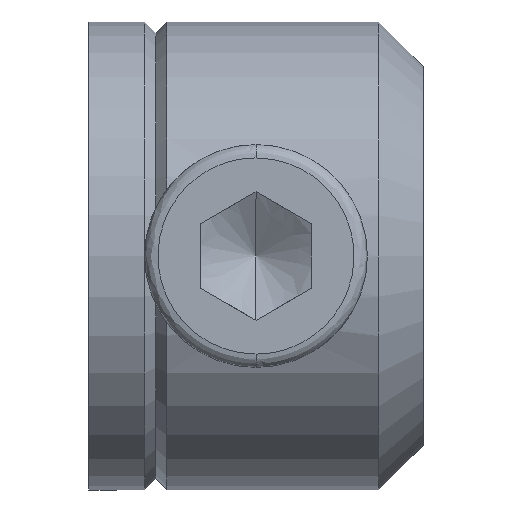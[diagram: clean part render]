
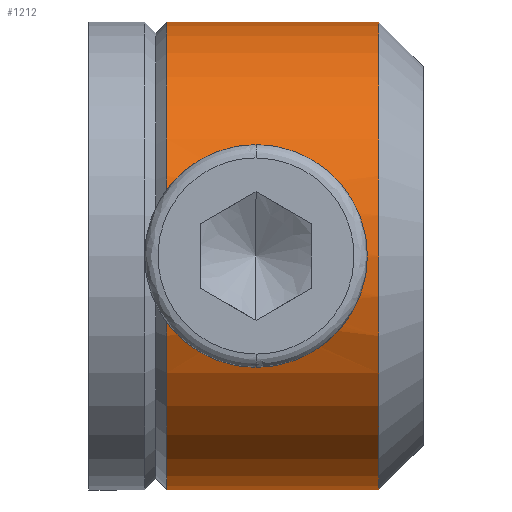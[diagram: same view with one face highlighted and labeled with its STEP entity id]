
A CAD part, front view. The second image highlights one B-rep face of the part: STEP entity #1212.
In plain terms, the highlighted cylindrical face has radius 10.5 mm (diameter 21 mm), a partial arc.
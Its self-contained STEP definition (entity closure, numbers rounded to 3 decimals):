
#40 = CARTESIAN_POINT ( 'NONE',  ( 14.548, 3.443, -10.5 ) ) ;
#87 = DIRECTION ( 'NONE',  ( -1., 0., 0. ) ) ;
#88 = VECTOR ( 'NONE', #87, 1000. ) ;
#89 = CARTESIAN_POINT ( 'NONE',  ( 9.798, 3.443, -10.5 ) ) ;
#90 = LINE ( 'NONE', #89, #88 ) ;
#91 = CARTESIAN_POINT ( 'NONE',  ( 14.548, 3.443, 10.5 ) ) ;
#170 = DIRECTION ( 'NONE',  ( -1., 0., 0. ) ) ;
#171 = VECTOR ( 'NONE', #170, 1000. ) ;
#172 = CARTESIAN_POINT ( 'NONE',  ( 9.798, 3.443, 10.5 ) ) ;
#173 = LINE ( 'NONE', #172, #171 ) ;
#174 = CARTESIAN_POINT ( 'NONE',  ( 5.048, 3.443, -10.5 ) ) ;
#531 = DIRECTION ( 'NONE',  ( 0., 0., 1. ) ) ;
#540 = DIRECTION ( 'NONE',  ( 0., 0., 1. ) ) ;
#541 = DIRECTION ( 'NONE',  ( 1., 0., 0. ) ) ;
#542 = CARTESIAN_POINT ( 'NONE',  ( 5.048, 3.443, 0. ) ) ;
#543 = AXIS2_PLACEMENT_3D ( 'NONE', #542, #541, #540 ) ;
#544 = CIRCLE ( 'NONE', #543, 10.5 ) ;
#617 = CARTESIAN_POINT ( 'NONE',  ( 6.048, -7.057, 0. ) ) ;
#618 = CARTESIAN_POINT ( 'NONE',  ( 6.048, -7.057, -0.199 ) ) ;
#619 = CARTESIAN_POINT ( 'NONE',  ( 6.068, -7.052, -0.396 ) ) ;
#620 = CARTESIAN_POINT ( 'NONE',  ( 6.146, -7.03, -0.784 ) ) ;
#621 = CARTESIAN_POINT ( 'NONE',  ( 6.204, -7.013, -0.974 ) ) ;
#622 = CARTESIAN_POINT ( 'NONE',  ( 6.429, -6.954, -1.514 ) ) ;
#623 = CARTESIAN_POINT ( 'NONE',  ( 6.653, -6.897, -1.847 ) ) ;
#624 = CARTESIAN_POINT ( 'NONE',  ( 7.065, -6.812, -2.259 ) ) ;
#625 = CARTESIAN_POINT ( 'NONE',  ( 7.218, -6.783, -2.385 ) ) ;
#626 = CARTESIAN_POINT ( 'NONE',  ( 7.544, -6.73, -2.603 ) ) ;
#627 = CARTESIAN_POINT ( 'NONE',  ( 7.715, -6.706, -2.695 ) ) ;
#628 = CARTESIAN_POINT ( 'NONE',  ( 8.078, -6.665, -2.845 ) ) ;
#629 = CARTESIAN_POINT ( 'NONE',  ( 8.269, -6.648, -2.904 ) ) ;
#630 = CARTESIAN_POINT ( 'NONE',  ( 8.654, -6.625, -2.98 ) ) ;
#631 = CARTESIAN_POINT ( 'NONE',  ( 8.849, -6.619, -3. ) ) ;
#632 = CARTESIAN_POINT ( 'NONE',  ( 9.248, -6.619, -3. ) ) ;
#633 = CARTESIAN_POINT ( 'NONE',  ( 9.444, -6.625, -2.98 ) ) ;
#634 = CARTESIAN_POINT ( 'NONE',  ( 9.833, -6.648, -2.902 ) ) ;
#635 = CARTESIAN_POINT ( 'NONE',  ( 10.022, -6.665, -2.844 ) ) ;
#636 = CARTESIAN_POINT ( 'NONE',  ( 10.563, -6.726, -2.619 ) ) ;
#637 = CARTESIAN_POINT ( 'NONE',  ( 10.895, -6.784, -2.396 ) ) ;
#638 = CARTESIAN_POINT ( 'NONE',  ( 11.308, -6.869, -1.983 ) ) ;
#639 = CARTESIAN_POINT ( 'NONE',  ( 11.433, -6.898, -1.83 ) ) ;
#640 = CARTESIAN_POINT ( 'NONE',  ( 11.651, -6.95, -1.505 ) ) ;
#649 = DIRECTION ( 'NONE',  ( -1., 0., 0. ) ) ;
#650 = CARTESIAN_POINT ( 'NONE',  ( 9.798, 3.443, 0. ) ) ;
#651 = AXIS2_PLACEMENT_3D ( 'NONE', #650, #649, #531 ) ;
#653 = CYLINDRICAL_SURFACE ( 'NONE', #651, 10.5 ) ;
#654 = FACE_BOUND ( 'NONE', #1080, .T. ) ;
#655 = FACE_OUTER_BOUND ( 'NONE', #1172, .T. ) ;
#661 = DIRECTION ( 'NONE',  ( 0., -1., 0. ) ) ;
#662 = DIRECTION ( 'NONE',  ( 1., 0., 0. ) ) ;
#663 = CARTESIAN_POINT ( 'NONE',  ( 14.548, 3.443, 0. ) ) ;
#664 = AXIS2_PLACEMENT_3D ( 'NONE', #663, #662, #661 ) ;
#665 = CIRCLE ( 'NONE', #664, 10.5 ) ;
#669 = CARTESIAN_POINT ( 'NONE',  ( 11.743, -6.974, -1.333 ) ) ;
#670 = CARTESIAN_POINT ( 'NONE',  ( 11.894, -7.014, -0.971 ) ) ;
#671 = CARTESIAN_POINT ( 'NONE',  ( 11.952, -7.03, -0.78 ) ) ;
#672 = CARTESIAN_POINT ( 'NONE',  ( 12.029, -7.052, -0.395 ) ) ;
#673 = CARTESIAN_POINT ( 'NONE',  ( 12.048, -7.057, -0.199 ) ) ;
#674 = CARTESIAN_POINT ( 'NONE',  ( 12.048, -7.057, 0. ) ) ;
#676 = B_SPLINE_CURVE_WITH_KNOTS ( 'NONE', 3,
 ( #674, #673, #672, #671, #670, #669, #640, #639, #638, #637, #636, #635, #634, #633, #632, #631, #630, #629, #628, #627, #626, #625, #624, #623, #622, #621, #620, #619, #618, #617 ),
 .UNSPECIFIED., .F., .F.,
 ( 4, 2, 2, 2, 2, 2, 2, 2, 2, 2, 2, 2, 2, 2, 4 ),
 ( 0.014, 0.015, 0.015, 0.016, 0.016, 0.018, 0.018, 0.019, 0.019, 0.02, 0.021, 0.021, 0.022, 0.023, 0.024 ),
 .UNSPECIFIED. ) ;
#755 = CARTESIAN_POINT ( 'NONE',  ( 6.145, -7.03, 0.78 ) ) ;
#756 = CARTESIAN_POINT ( 'NONE',  ( 6.068, -7.052, 0.395 ) ) ;
#757 = CARTESIAN_POINT ( 'NONE',  ( 6.048, -7.057, 0.199 ) ) ;
#758 = CARTESIAN_POINT ( 'NONE',  ( 6.048, -7.057, 0. ) ) ;
#761 = CARTESIAN_POINT ( 'NONE',  ( 6.048, -7.057, 0. ) ) ;
#765 = CARTESIAN_POINT ( 'NONE',  ( 12.048, -7.057, 0. ) ) ;
#766 = B_SPLINE_CURVE_WITH_KNOTS ( 'NONE', 3,
 ( #758, #757, #756, #755, #770, #769, #768, #767, #803, #802, #801, #800, #799, #798, #797, #796, #795, #794, #793, #792, #791, #790, #789, #788, #787, #786, #785, #784, #783, #782 ),
 .UNSPECIFIED., .F., .F.,
 ( 4, 2, 2, 2, 2, 2, 2, 2, 2, 2, 2, 2, 2, 2, 4 ),
 ( 0.005, 0.005, 0.006, 0.006, 0.007, 0.008, 0.009, 0.009, 0.01, 0.011, 0.012, 0.012, 0.013, 0.014, 0.014 ),
 .UNSPECIFIED. ) ;
#767 = CARTESIAN_POINT ( 'NONE',  ( 6.664, -6.898, 1.831 ) ) ;
#768 = CARTESIAN_POINT ( 'NONE',  ( 6.446, -6.95, 1.506 ) ) ;
#769 = CARTESIAN_POINT ( 'NONE',  ( 6.354, -6.974, 1.334 ) ) ;
#770 = CARTESIAN_POINT ( 'NONE',  ( 6.203, -7.014, 0.971 ) ) ;
#782 = CARTESIAN_POINT ( 'NONE',  ( 12.048, -7.057, 0. ) ) ;
#783 = CARTESIAN_POINT ( 'NONE',  ( 12.048, -7.057, 0.199 ) ) ;
#784 = CARTESIAN_POINT ( 'NONE',  ( 12.028, -7.051, 0.399 ) ) ;
#785 = CARTESIAN_POINT ( 'NONE',  ( 11.951, -7.03, 0.786 ) ) ;
#786 = CARTESIAN_POINT ( 'NONE',  ( 11.893, -7.014, 0.973 ) ) ;
#787 = CARTESIAN_POINT ( 'NONE',  ( 11.743, -6.974, 1.334 ) ) ;
#788 = CARTESIAN_POINT ( 'NONE',  ( 11.648, -6.949, 1.51 ) ) ;
#789 = CARTESIAN_POINT ( 'NONE',  ( 11.431, -6.897, 1.834 ) ) ;
#790 = CARTESIAN_POINT ( 'NONE',  ( 11.307, -6.869, 1.984 ) ) ;
#791 = CARTESIAN_POINT ( 'NONE',  ( 10.892, -6.783, 2.399 ) ) ;
#792 = CARTESIAN_POINT ( 'NONE',  ( 10.562, -6.726, 2.62 ) ) ;
#793 = CARTESIAN_POINT ( 'NONE',  ( 10.015, -6.664, 2.847 ) ) ;
#794 = CARTESIAN_POINT ( 'NONE',  ( 9.828, -6.648, 2.904 ) ) ;
#795 = CARTESIAN_POINT ( 'NONE',  ( 9.442, -6.625, 2.981 ) ) ;
#796 = CARTESIAN_POINT ( 'NONE',  ( 9.242, -6.619, 3. ) ) ;
#797 = CARTESIAN_POINT ( 'NONE',  ( 8.849, -6.62, 3. ) ) ;
#798 = CARTESIAN_POINT ( 'NONE',  ( 8.654, -6.625, 2.98 ) ) ;
#799 = CARTESIAN_POINT ( 'NONE',  ( 8.266, -6.648, 2.903 ) ) ;
#800 = CARTESIAN_POINT ( 'NONE',  ( 8.076, -6.665, 2.845 ) ) ;
#801 = CARTESIAN_POINT ( 'NONE',  ( 7.535, -6.726, 2.62 ) ) ;
#802 = CARTESIAN_POINT ( 'NONE',  ( 7.202, -6.784, 2.397 ) ) ;
#803 = CARTESIAN_POINT ( 'NONE',  ( 6.79, -6.869, 1.984 ) ) ;
#869 = VERTEX_POINT ( 'NONE', #1267 ) ;
#882 = EDGE_CURVE ( 'NONE', #889, #883, #766, .T. ) ;
#883 = VERTEX_POINT ( 'NONE', #765 ) ;
#889 = VERTEX_POINT ( 'NONE', #761 ) ;
#977 = VERTEX_POINT ( 'NONE', #40 ) ;
#990 = VERTEX_POINT ( 'NONE', #91 ) ;
#991 = EDGE_CURVE ( 'NONE', #977, #1006, #90, .T. ) ;
#1006 = VERTEX_POINT ( 'NONE', #174 ) ;
#1007 = EDGE_CURVE ( 'NONE', #990, #869, #173, .T. ) ;
#1080 = EDGE_LOOP ( 'NONE', ( #1132, #1152 ) ) ;
#1100 = ORIENTED_EDGE ( 'NONE', *, *, #1171, .T. ) ;
#1132 = ORIENTED_EDGE ( 'NONE', *, *, #882, .T. ) ;
#1136 = ORIENTED_EDGE ( 'NONE', *, *, #991, .F. ) ;
#1138 = EDGE_CURVE ( 'NONE', #883, #889, #676, .T. ) ;
#1152 = ORIENTED_EDGE ( 'NONE', *, *, #1138, .T. ) ;
#1171 = EDGE_CURVE ( 'NONE', #869, #1006, #544, .T. ) ;
#1172 = EDGE_LOOP ( 'NONE', ( #1136, #1206, #1208, #1100 ) ) ;
#1206 = ORIENTED_EDGE ( 'NONE', *, *, #1207, .F. ) ;
#1207 = EDGE_CURVE ( 'NONE', #990, #977, #665, .T. ) ;
#1208 = ORIENTED_EDGE ( 'NONE', *, *, #1007, .T. ) ;
#1212 = ADVANCED_FACE ( 'NONE', ( #655, #654 ), #653, .T. ) ;
#1267 = CARTESIAN_POINT ( 'NONE',  ( 5.048, 3.443, 10.5 ) ) ;
